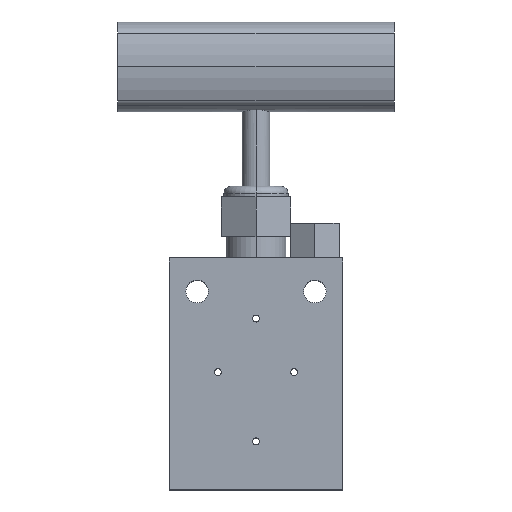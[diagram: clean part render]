
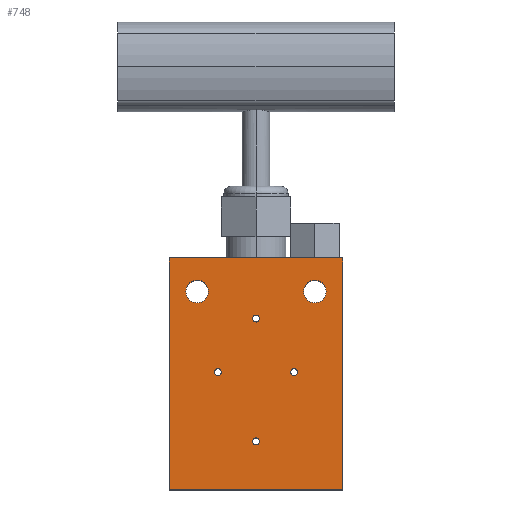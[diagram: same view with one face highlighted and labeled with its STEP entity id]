
A CAD part, top view. The second image highlights one B-rep face of the part: STEP entity #748.
In plain terms, the highlighted planar face has unit normal (0, 0, 1).
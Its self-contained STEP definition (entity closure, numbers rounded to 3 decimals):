
#11 = DIRECTION ( 'NONE',  ( 1., 0., 0. ) ) ;
#17 = EDGE_LOOP ( 'NONE', ( #1912, #3146 ) ) ;
#30 = VERTEX_POINT ( 'NONE', #1508 ) ;
#36 = ORIENTED_EDGE ( 'NONE', *, *, #2813, .F. ) ;
#55 = DIRECTION ( 'NONE',  ( 0., 0., 1. ) ) ;
#64 = CARTESIAN_POINT ( 'NONE',  ( 13.75, 23.55, 12.5 ) ) ;
#88 = DIRECTION ( 'NONE',  ( 1., 0., 0. ) ) ;
#115 = CARTESIAN_POINT ( 'NONE',  ( 1., -19.75, 12.5 ) ) ;
#124 = DIRECTION ( 'NONE',  ( 1., 0., 0. ) ) ;
#142 = PLANE ( 'NONE',  #3176 ) ;
#161 = DIRECTION ( 'NONE',  ( 1., 0., 0. ) ) ;
#169 = DIRECTION ( 'NONE',  ( 0., -1., 0. ) ) ;
#171 = DIRECTION ( 'NONE',  ( 0., 0., 1. ) ) ;
#236 = EDGE_LOOP ( 'NONE', ( #1965, #1602 ) ) ;
#254 = DIRECTION ( 'NONE',  ( 1., 0., 0. ) ) ;
#263 = EDGE_CURVE ( 'NONE', #30, #3109, #2757, .T. ) ;
#317 = AXIS2_PLACEMENT_3D ( 'NONE', #2268, #2825, #1382 ) ;
#378 = AXIS2_PLACEMENT_3D ( 'NONE', #3055, #1458, #88 ) ;
#392 = CARTESIAN_POINT ( 'NONE',  ( 12., 0.25, 12.5 ) ) ;
#395 = VERTEX_POINT ( 'NONE', #1689 ) ;
#435 = CIRCLE ( 'NONE', #1472, 1. ) ;
#445 = CARTESIAN_POINT ( 'NONE',  ( 17., 23.55, 12.5 ) ) ;
#473 = DIRECTION ( 'NONE',  ( -1., 0., 0. ) ) ;
#478 = EDGE_CURVE ( 'NONE', #395, #845, #994, .T. ) ;
#544 = CIRCLE ( 'NONE', #2832, 3.25 ) ;
#669 = FACE_BOUND ( 'NONE', #1753, .T. ) ;
#713 = EDGE_CURVE ( 'NONE', #1159, #1793, #3473, .T. ) ;
#721 = VERTEX_POINT ( 'NONE', #2636 ) ;
#724 = DIRECTION ( 'NONE',  ( 1., 0., 0. ) ) ;
#726 = DIRECTION ( 'NONE',  ( 0., 0., 1. ) ) ;
#740 = VERTEX_POINT ( 'NONE', #392 ) ;
#748 = ADVANCED_FACE ( 'NONE', ( #3441, #940, #2056, #3182, #669, #1787, #1514 ), #142, .T. ) ;
#759 = ORIENTED_EDGE ( 'NONE', *, *, #1412, .F. ) ;
#777 = EDGE_CURVE ( 'NONE', #1180, #2120, #1313, .T. ) ;
#785 = ORIENTED_EDGE ( 'NONE', *, *, #777, .T. ) ;
#845 = VERTEX_POINT ( 'NONE', #1818 ) ;
#847 = EDGE_CURVE ( 'NONE', #3024, #2356, #2708, .T. ) ;
#853 = LINE ( 'NONE', #2373, #3472 ) ;
#924 = AXIS2_PLACEMENT_3D ( 'NONE', #2506, #3591, #1117 ) ;
#940 = FACE_BOUND ( 'NONE', #3563, .T. ) ;
#977 = CIRCLE ( 'NONE', #2147, 3.25 ) ;
#994 = CIRCLE ( 'NONE', #2166, 1. ) ;
#1030 = AXIS2_PLACEMENT_3D ( 'NONE', #1384, #55, #3377 ) ;
#1035 = CARTESIAN_POINT ( 'NONE',  ( 0., 15.75, 12.5 ) ) ;
#1054 = CARTESIAN_POINT ( 'NONE',  ( -25., 33.25, 12.5 ) ) ;
#1117 = DIRECTION ( 'NONE',  ( 1., 0., 0. ) ) ;
#1141 = EDGE_LOOP ( 'NONE', ( #2158, #2789, #3557, #785 ) ) ;
#1158 = EDGE_CURVE ( 'NONE', #2332, #1447, #1387, .T. ) ;
#1159 = VERTEX_POINT ( 'NONE', #1911 ) ;
#1170 = CIRCLE ( 'NONE', #1529, 1. ) ;
#1180 = VERTEX_POINT ( 'NONE', #1946 ) ;
#1205 = CARTESIAN_POINT ( 'NONE',  ( 20.25, 23.55, 12.5 ) ) ;
#1228 = CARTESIAN_POINT ( 'NONE',  ( 0., 0., 12.5 ) ) ;
#1246 = DIRECTION ( 'NONE',  ( 0., 1., 0. ) ) ;
#1308 = EDGE_LOOP ( 'NONE', ( #2905, #2303 ) ) ;
#1313 = LINE ( 'NONE', #1054, #2991 ) ;
#1323 = CIRCLE ( 'NONE', #1030, 1. ) ;
#1348 = CARTESIAN_POINT ( 'NONE',  ( -13.75, 23.55, 12.5 ) ) ;
#1354 = EDGE_CURVE ( 'NONE', #2508, #740, #1323, .T. ) ;
#1382 = DIRECTION ( 'NONE',  ( -1., 0., 0. ) ) ;
#1384 = CARTESIAN_POINT ( 'NONE',  ( 11., 0.25, 12.5 ) ) ;
#1387 = CIRCLE ( 'NONE', #924, 1. ) ;
#1405 = CARTESIAN_POINT ( 'NONE',  ( -17., 23.55, 12.5 ) ) ;
#1410 = VECTOR ( 'NONE', #124, 1000. ) ;
#1412 = EDGE_CURVE ( 'NONE', #2681, #721, #977, .T. ) ;
#1431 = DIRECTION ( 'NONE',  ( 1., 0., 0. ) ) ;
#1447 = VERTEX_POINT ( 'NONE', #2285 ) ;
#1458 = DIRECTION ( 'NONE',  ( 0., 0., 1. ) ) ;
#1472 = AXIS2_PLACEMENT_3D ( 'NONE', #1035, #2156, #254 ) ;
#1508 = CARTESIAN_POINT ( 'NONE',  ( -1., -19.75, 12.5 ) ) ;
#1514 = FACE_OUTER_BOUND ( 'NONE', #1141, .T. ) ;
#1529 = AXIS2_PLACEMENT_3D ( 'NONE', #2124, #171, #724 ) ;
#1560 = CARTESIAN_POINT ( 'NONE',  ( 0., -19.75, 12.5 ) ) ;
#1572 = CARTESIAN_POINT ( 'NONE',  ( 25., 33.25, 12.5 ) ) ;
#1602 = ORIENTED_EDGE ( 'NONE', *, *, #478, .F. ) ;
#1645 = AXIS2_PLACEMENT_3D ( 'NONE', #445, #726, #473 ) ;
#1689 = CARTESIAN_POINT ( 'NONE',  ( -12., 0.25, 12.5 ) ) ;
#1753 = EDGE_LOOP ( 'NONE', ( #759, #36 ) ) ;
#1787 = FACE_BOUND ( 'NONE', #3523, .T. ) ;
#1793 = VERTEX_POINT ( 'NONE', #3221 ) ;
#1816 = CARTESIAN_POINT ( 'NONE',  ( 11., 0.25, 12.5 ) ) ;
#1818 = CARTESIAN_POINT ( 'NONE',  ( -10., 0.25, 12.5 ) ) ;
#1911 = CARTESIAN_POINT ( 'NONE',  ( -25., -33.75, 12.5 ) ) ;
#1912 = ORIENTED_EDGE ( 'NONE', *, *, #3295, .F. ) ;
#1946 = CARTESIAN_POINT ( 'NONE',  ( 25., 33.25, 12.5 ) ) ;
#1965 = ORIENTED_EDGE ( 'NONE', *, *, #2582, .F. ) ;
#2018 = VECTOR ( 'NONE', #1246, 1000. ) ;
#2029 = DIRECTION ( 'NONE',  ( 0., 0., 1. ) ) ;
#2056 = FACE_BOUND ( 'NONE', #17, .T. ) ;
#2077 = DIRECTION ( 'NONE',  ( 1., 0., 0. ) ) ;
#2105 = AXIS2_PLACEMENT_3D ( 'NONE', #1560, #2443, #2691 ) ;
#2120 = VERTEX_POINT ( 'NONE', #3238 ) ;
#2124 = CARTESIAN_POINT ( 'NONE',  ( -11., 0.25, 12.5 ) ) ;
#2147 = AXIS2_PLACEMENT_3D ( 'NONE', #2514, #3092, #11 ) ;
#2156 = DIRECTION ( 'NONE',  ( 0., 0., 1. ) ) ;
#2158 = ORIENTED_EDGE ( 'NONE', *, *, #2993, .T. ) ;
#2166 = AXIS2_PLACEMENT_3D ( 'NONE', #2241, #2776, #1431 ) ;
#2241 = CARTESIAN_POINT ( 'NONE',  ( -11., 0.25, 12.5 ) ) ;
#2268 = CARTESIAN_POINT ( 'NONE',  ( 17., 23.55, 12.5 ) ) ;
#2285 = CARTESIAN_POINT ( 'NONE',  ( 1., 15.75, 12.5 ) ) ;
#2303 = ORIENTED_EDGE ( 'NONE', *, *, #1158, .F. ) ;
#2326 = ORIENTED_EDGE ( 'NONE', *, *, #847, .F. ) ;
#2332 = VERTEX_POINT ( 'NONE', #3102 ) ;
#2356 = VERTEX_POINT ( 'NONE', #64 ) ;
#2362 = DIRECTION ( 'NONE',  ( 0., 0., 1. ) ) ;
#2373 = CARTESIAN_POINT ( 'NONE',  ( -25., 33.25, 12.5 ) ) ;
#2443 = DIRECTION ( 'NONE',  ( 0., 0., 1. ) ) ;
#2464 = EDGE_CURVE ( 'NONE', #740, #2508, #3435, .T. ) ;
#2495 = EDGE_CURVE ( 'NONE', #1793, #1180, #2942, .T. ) ;
#2506 = CARTESIAN_POINT ( 'NONE',  ( 0., 15.75, 12.5 ) ) ;
#2508 = VERTEX_POINT ( 'NONE', #2912 ) ;
#2514 = CARTESIAN_POINT ( 'NONE',  ( -17., 23.55, 12.5 ) ) ;
#2533 = CIRCLE ( 'NONE', #317, 3.25 ) ;
#2575 = DIRECTION ( 'NONE',  ( 1., 0., 0. ) ) ;
#2582 = EDGE_CURVE ( 'NONE', #845, #395, #1170, .T. ) ;
#2613 = ORIENTED_EDGE ( 'NONE', *, *, #3347, .F. ) ;
#2636 = CARTESIAN_POINT ( 'NONE',  ( -20.25, 23.55, 12.5 ) ) ;
#2651 = EDGE_CURVE ( 'NONE', #1447, #2332, #435, .T. ) ;
#2681 = VERTEX_POINT ( 'NONE', #1348 ) ;
#2691 = DIRECTION ( 'NONE',  ( 1., 0., 0. ) ) ;
#2708 = CIRCLE ( 'NONE', #1645, 3.25 ) ;
#2757 = CIRCLE ( 'NONE', #2105, 1. ) ;
#2776 = DIRECTION ( 'NONE',  ( 0., 0., 1. ) ) ;
#2789 = ORIENTED_EDGE ( 'NONE', *, *, #713, .T. ) ;
#2813 = EDGE_CURVE ( 'NONE', #721, #2681, #544, .T. ) ;
#2825 = DIRECTION ( 'NONE',  ( 0., 0., 1. ) ) ;
#2832 = AXIS2_PLACEMENT_3D ( 'NONE', #1405, #2029, #2575 ) ;
#2872 = CARTESIAN_POINT ( 'NONE',  ( -25., -33.75, 12.5 ) ) ;
#2905 = ORIENTED_EDGE ( 'NONE', *, *, #2651, .F. ) ;
#2912 = CARTESIAN_POINT ( 'NONE',  ( 10., 0.25, 12.5 ) ) ;
#2942 = LINE ( 'NONE', #1572, #2018 ) ;
#2956 = DIRECTION ( 'NONE',  ( 0., 0., 1. ) ) ;
#2991 = VECTOR ( 'NONE', #3529, 1000. ) ;
#2993 = EDGE_CURVE ( 'NONE', #2120, #1159, #853, .T. ) ;
#3024 = VERTEX_POINT ( 'NONE', #1205 ) ;
#3055 = CARTESIAN_POINT ( 'NONE',  ( 0., -19.75, 12.5 ) ) ;
#3092 = DIRECTION ( 'NONE',  ( 0., 0., 1. ) ) ;
#3102 = CARTESIAN_POINT ( 'NONE',  ( -1., 15.75, 12.5 ) ) ;
#3107 = ORIENTED_EDGE ( 'NONE', *, *, #2464, .F. ) ;
#3109 = VERTEX_POINT ( 'NONE', #115 ) ;
#3146 = ORIENTED_EDGE ( 'NONE', *, *, #263, .F. ) ;
#3176 = AXIS2_PLACEMENT_3D ( 'NONE', #1228, #2362, #2077 ) ;
#3182 = FACE_BOUND ( 'NONE', #236, .T. ) ;
#3221 = CARTESIAN_POINT ( 'NONE',  ( 25., -33.75, 12.5 ) ) ;
#3238 = CARTESIAN_POINT ( 'NONE',  ( -25., 33.25, 12.5 ) ) ;
#3295 = EDGE_CURVE ( 'NONE', #3109, #30, #3512, .T. ) ;
#3347 = EDGE_CURVE ( 'NONE', #2356, #3024, #2533, .T. ) ;
#3377 = DIRECTION ( 'NONE',  ( 1., 0., 0. ) ) ;
#3435 = CIRCLE ( 'NONE', #3593, 1. ) ;
#3441 = FACE_BOUND ( 'NONE', #1308, .T. ) ;
#3472 = VECTOR ( 'NONE', #169, 1000. ) ;
#3473 = LINE ( 'NONE', #2872, #1410 ) ;
#3512 = CIRCLE ( 'NONE', #378, 1. ) ;
#3523 = EDGE_LOOP ( 'NONE', ( #2326, #2613 ) ) ;
#3529 = DIRECTION ( 'NONE',  ( -1., 0., 0. ) ) ;
#3557 = ORIENTED_EDGE ( 'NONE', *, *, #2495, .T. ) ;
#3563 = EDGE_LOOP ( 'NONE', ( #3107, #3585 ) ) ;
#3585 = ORIENTED_EDGE ( 'NONE', *, *, #1354, .F. ) ;
#3591 = DIRECTION ( 'NONE',  ( 0., 0., 1. ) ) ;
#3593 = AXIS2_PLACEMENT_3D ( 'NONE', #1816, #2956, #161 ) ;
